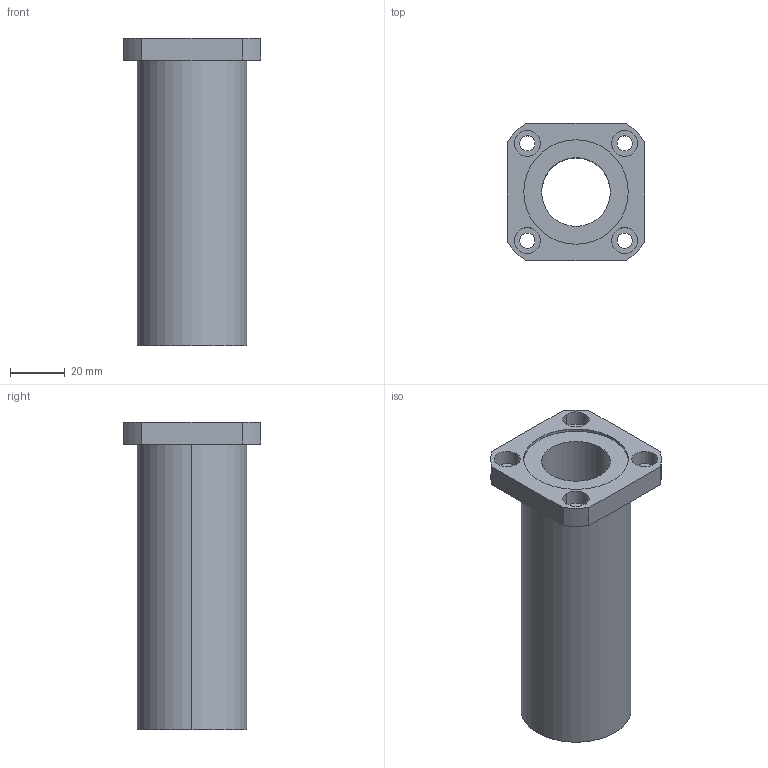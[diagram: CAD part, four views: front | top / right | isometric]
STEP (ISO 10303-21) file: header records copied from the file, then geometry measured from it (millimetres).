
FILE_DESCRIPTION((''),'2;1');
FILE_NAME('C:\Documents and Settings\ｿﾀﾀ蠑ｷ1\ｹﾙﾅﾁ ﾈｭｸ饅\ｺﾎﾇｰﾆﾄﾀﾏ\ﾁｦﾇｰ\LMEK__LUU\LMEK25LUU.stp','2005-06-15T11:01:50',('ｿﾀﾀ蠑ｷ1'),(''),'Autodesk Inventor 9','Autodesk Inventor 9','');
FILE_SCHEMA(('AUTOMOTIVE_DESIGN { 1 0 10303 214 1 1 1 1 }'));
Length unit declared in the file: millimetre
Products named in the file (1): LMEK__(L)
Bounding box: 50 x 50 x 112 mm (x, y, z)
Volume: 92008.9 mm3; surface area: 27916 mm2
Topology: 1 solids, 1 shells, 41 faces, 96 edges, 64 vertices
Faces by surface type: bspline 20, cylinder 12, plane 9
Entity records: 1457 total; most frequent: CARTESIAN_POINT 486, DIRECTION 196, ORIENTED_EDGE 192, EDGE_CURVE 96, AXIS2_PLACEMENT_3D 78, VERTEX_POINT 64, EDGE_LOOP 58, CIRCLE 56
